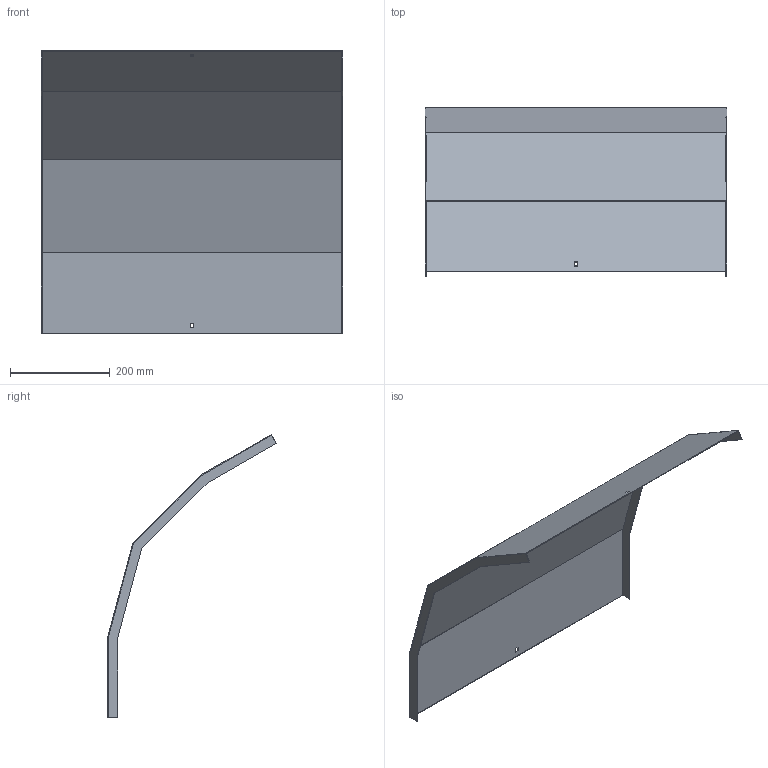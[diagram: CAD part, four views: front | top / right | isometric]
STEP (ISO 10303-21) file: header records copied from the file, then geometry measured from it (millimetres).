
FILE_DESCRIPTION (( 'STEP AP214' ), '1' );
FILE_NAME ('A2_41N3C600.step', '2025-02-21T10:39:25', ( '' ), ( '' ), 'SwSTEP 2.0', 'SolidWorks 2023', '' );
FILE_SCHEMA (( 'AUTOMOTIVE_DESIGN' ));
Length unit declared in the file: millimetre
Products named in the file (1): A2_41N3C600
Bounding box: 603 x 337.26 x 566.83 mm (x, y, z)
Volume: 681270 mm3; surface area: 912445.3 mm2
Topology: 1 solids, 1 shells, 30 faces, 84 edges, 56 vertices
Faces by surface type: plane 30
Entity records: 979 total; most frequent: CARTESIAN_POINT 171, ORIENTED_EDGE 168, DIRECTION 146, VECTOR 84, EDGE_CURVE 84, LINE 84, VERTEX_POINT 56, EDGE_LOOP 34
